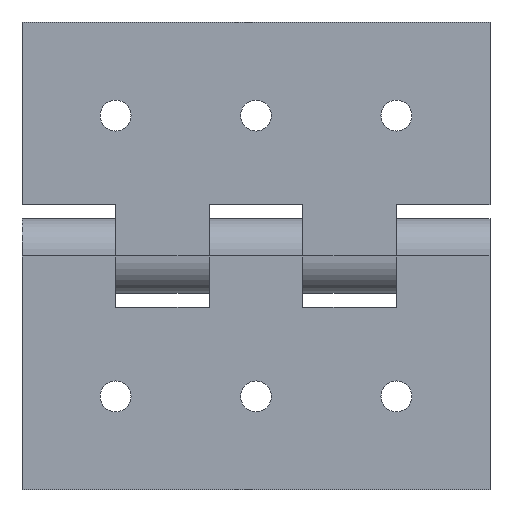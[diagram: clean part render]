
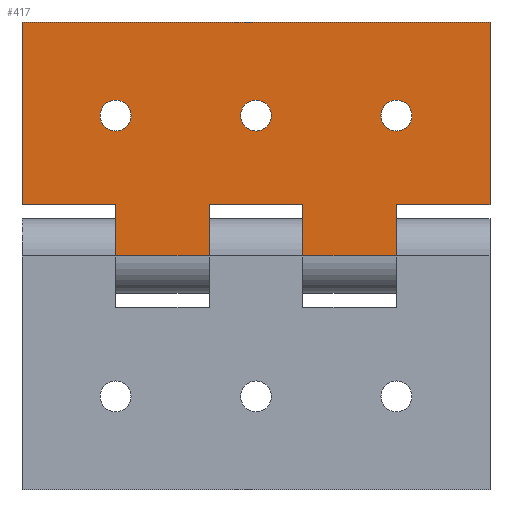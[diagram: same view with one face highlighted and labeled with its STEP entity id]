
A CAD part, front view. The second image highlights one B-rep face of the part: STEP entity #417.
In plain terms, the highlighted planar face has unit normal (0, -1, 0).
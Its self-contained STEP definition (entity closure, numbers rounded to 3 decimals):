
#3 = LINE ( 'NONE', #936, #1346 ) ;
#36 = DIRECTION ( 'NONE',  ( 0., 1., 0. ) ) ;
#47 = VERTEX_POINT ( 'NONE', #1855 ) ;
#72 = CARTESIAN_POINT ( 'NONE',  ( -30., 0., -10.954 ) ) ;
#125 = VERTEX_POINT ( 'NONE', #983 ) ;
#127 = CARTESIAN_POINT ( 'NONE',  ( 30., 0., -30. ) ) ;
#151 = EDGE_CURVE ( 'NONE', #1520, #2225, #1431, .T. ) ;
#166 = AXIS2_PLACEMENT_3D ( 'NONE', #1659, #767, #2097 ) ;
#176 = CARTESIAN_POINT ( 'NONE',  ( 0., 0., -26.7 ) ) ;
#179 = ORIENTED_EDGE ( 'NONE', *, *, #2782, .T. ) ;
#181 = ORIENTED_EDGE ( 'NONE', *, *, #1667, .T. ) ;
#192 = EDGE_CURVE ( 'NONE', #403, #2203, #1691, .T. ) ;
#201 = CIRCLE ( 'NONE', #2544, 3.3 ) ;
#213 = CARTESIAN_POINT ( 'NONE',  ( -10., 0., -10.954 ) ) ;
#236 = LINE ( 'NONE', #1143, #398 ) ;
#239 = CARTESIAN_POINT ( 'NONE',  ( 30., 0., -10.954 ) ) ;
#269 = EDGE_CURVE ( 'NONE', #1974, #47, #2843, .T. ) ;
#313 = EDGE_CURVE ( 'NONE', #651, #1520, #3, .T. ) ;
#351 = CARTESIAN_POINT ( 'NONE',  ( 50., 0., 0. ) ) ;
#398 = VECTOR ( 'NONE', #2192, 1000. ) ;
#399 = VERTEX_POINT ( 'NONE', #239 ) ;
#403 = VERTEX_POINT ( 'NONE', #2693 ) ;
#417 = ADVANCED_FACE ( 'NONE', ( #912, #1776, #713, #2665 ), #476, .F. ) ;
#469 = CARTESIAN_POINT ( 'NONE',  ( 0., 0., -30. ) ) ;
#476 = PLANE ( 'NONE',  #816 ) ;
#497 = EDGE_CURVE ( 'NONE', #565, #2157, #2318, .T. ) ;
#522 = VERTEX_POINT ( 'NONE', #2537 ) ;
#555 = DIRECTION ( 'NONE',  ( 0., 0., -1. ) ) ;
#565 = VERTEX_POINT ( 'NONE', #754 ) ;
#582 = DIRECTION ( 'NONE',  ( 0., 1., 0. ) ) ;
#591 = CARTESIAN_POINT ( 'NONE',  ( -30., 0., -10.954 ) ) ;
#627 = CARTESIAN_POINT ( 'NONE',  ( 10., 0., -10.954 ) ) ;
#642 = CARTESIAN_POINT ( 'NONE',  ( 50., 0., -50. ) ) ;
#651 = VERTEX_POINT ( 'NONE', #2700 ) ;
#678 = CARTESIAN_POINT ( 'NONE',  ( 50., 0., -50. ) ) ;
#703 = EDGE_CURVE ( 'NONE', #125, #522, #2708, .T. ) ;
#713 = FACE_BOUND ( 'NONE', #2200, .T. ) ;
#745 = AXIS2_PLACEMENT_3D ( 'NONE', #127, #582, #1298 ) ;
#754 = CARTESIAN_POINT ( 'NONE',  ( -30., 0., -26.7 ) ) ;
#766 = LINE ( 'NONE', #72, #2643 ) ;
#767 = DIRECTION ( 'NONE',  ( 0., 1., 0. ) ) ;
#769 = CARTESIAN_POINT ( 'NONE',  ( -30., 0., -33.3 ) ) ;
#784 = DIRECTION ( 'NONE',  ( 0., 0., 1. ) ) ;
#787 = DIRECTION ( 'NONE',  ( 0., 0., 1. ) ) ;
#816 = AXIS2_PLACEMENT_3D ( 'NONE', #1369, #2015, #1390 ) ;
#874 = EDGE_LOOP ( 'NONE', ( #1095, #1554, #1682, #1693, #2565, #2784, #2754, #2072, #1639, #181, #1984, #2057 ) ) ;
#888 = DIRECTION ( 'NONE',  ( 0., 1., 0. ) ) ;
#901 = VECTOR ( 'NONE', #1113, 1000. ) ;
#907 = CIRCLE ( 'NONE', #1141, 3.3 ) ;
#912 = FACE_BOUND ( 'NONE', #2040, .T. ) ;
#913 = EDGE_CURVE ( 'NONE', #2225, #125, #1785, .T. ) ;
#914 = VECTOR ( 'NONE', #1515, 1000. ) ;
#917 = CARTESIAN_POINT ( 'NONE',  ( 0., 0., -33.3 ) ) ;
#926 = EDGE_CURVE ( 'NONE', #2203, #1552, #1108, .T. ) ;
#936 = CARTESIAN_POINT ( 'NONE',  ( 50., 0., 0. ) ) ;
#959 = VECTOR ( 'NONE', #2131, 1000. ) ;
#983 = CARTESIAN_POINT ( 'NONE',  ( -10., 0., -10.954 ) ) ;
#1081 = CARTESIAN_POINT ( 'NONE',  ( -30., 0., 0. ) ) ;
#1095 = ORIENTED_EDGE ( 'NONE', *, *, #1327, .T. ) ;
#1108 = LINE ( 'NONE', #678, #2001 ) ;
#1113 = DIRECTION ( 'NONE',  ( -1., 0., 0. ) ) ;
#1141 = AXIS2_PLACEMENT_3D ( 'NONE', #2429, #36, #2442 ) ;
#1143 = CARTESIAN_POINT ( 'NONE',  ( 30., 0., -10.954 ) ) ;
#1155 = LINE ( 'NONE', #1411, #2171 ) ;
#1180 = CIRCLE ( 'NONE', #2735, 3.3 ) ;
#1206 = VERTEX_POINT ( 'NONE', #176 ) ;
#1244 = AXIS2_PLACEMENT_3D ( 'NONE', #2180, #1288, #2586 ) ;
#1256 = DIRECTION ( 'NONE',  ( 0., 1., 0. ) ) ;
#1288 = DIRECTION ( 'NONE',  ( 0., 1., 0. ) ) ;
#1298 = DIRECTION ( 'NONE',  ( 0., 0., 1. ) ) ;
#1309 = CARTESIAN_POINT ( 'NONE',  ( 10., 0., 0. ) ) ;
#1327 = EDGE_CURVE ( 'NONE', #403, #399, #2052, .T. ) ;
#1346 = VECTOR ( 'NONE', #2419, 1000. ) ;
#1357 = DIRECTION ( 'NONE',  ( -1., 0., 0. ) ) ;
#1369 = CARTESIAN_POINT ( 'NONE',  ( 50., 0., 0. ) ) ;
#1382 = DIRECTION ( 'NONE',  ( -1., 0., 0. ) ) ;
#1390 = DIRECTION ( 'NONE',  ( 0., 0., 1. ) ) ;
#1411 = CARTESIAN_POINT ( 'NONE',  ( -50., 0., 0. ) ) ;
#1431 = LINE ( 'NONE', #2316, #914 ) ;
#1467 = EDGE_CURVE ( 'NONE', #47, #1974, #1617, .T. ) ;
#1504 = LINE ( 'NONE', #2186, #901 ) ;
#1515 = DIRECTION ( 'NONE',  ( 0., 0., -1. ) ) ;
#1520 = VERTEX_POINT ( 'NONE', #1309 ) ;
#1537 = VECTOR ( 'NONE', #2283, 1000. ) ;
#1552 = VERTEX_POINT ( 'NONE', #1997 ) ;
#1554 = ORIENTED_EDGE ( 'NONE', *, *, #2818, .T. ) ;
#1595 = VECTOR ( 'NONE', #787, 1000. ) ;
#1617 = CIRCLE ( 'NONE', #745, 3.3 ) ;
#1639 = ORIENTED_EDGE ( 'NONE', *, *, #2017, .T. ) ;
#1659 = CARTESIAN_POINT ( 'NONE',  ( -30., 0., -30. ) ) ;
#1667 = EDGE_CURVE ( 'NONE', #2320, #1552, #1155, .T. ) ;
#1682 = ORIENTED_EDGE ( 'NONE', *, *, #313, .T. ) ;
#1691 = LINE ( 'NONE', #2837, #959 ) ;
#1693 = ORIENTED_EDGE ( 'NONE', *, *, #151, .T. ) ;
#1726 = ORIENTED_EDGE ( 'NONE', *, *, #1467, .T. ) ;
#1728 = VERTEX_POINT ( 'NONE', #591 ) ;
#1776 = FACE_BOUND ( 'NONE', #2726, .T. ) ;
#1785 = LINE ( 'NONE', #213, #1856 ) ;
#1804 = DIRECTION ( 'NONE',  ( 0., 0., -1. ) ) ;
#1832 = EDGE_CURVE ( 'NONE', #522, #1962, #2332, .T. ) ;
#1854 = CARTESIAN_POINT ( 'NONE',  ( 0., 0., -30. ) ) ;
#1855 = CARTESIAN_POINT ( 'NONE',  ( 30., 0., -26.7 ) ) ;
#1856 = VECTOR ( 'NONE', #1382, 1000. ) ;
#1870 = CARTESIAN_POINT ( 'NONE',  ( -10., 0., -10.954 ) ) ;
#1910 = EDGE_CURVE ( 'NONE', #1206, #2183, #201, .T. ) ;
#1940 = VECTOR ( 'NONE', #2094, 1000. ) ;
#1951 = ORIENTED_EDGE ( 'NONE', *, *, #497, .T. ) ;
#1962 = VERTEX_POINT ( 'NONE', #1081 ) ;
#1974 = VERTEX_POINT ( 'NONE', #2211 ) ;
#1984 = ORIENTED_EDGE ( 'NONE', *, *, #926, .F. ) ;
#1997 = CARTESIAN_POINT ( 'NONE',  ( -50., 0., -50. ) ) ;
#2001 = VECTOR ( 'NONE', #1357, 1000. ) ;
#2006 = ORIENTED_EDGE ( 'NONE', *, *, #269, .T. ) ;
#2015 = DIRECTION ( 'NONE',  ( 0., 1., 0. ) ) ;
#2017 = EDGE_CURVE ( 'NONE', #1728, #2320, #1504, .T. ) ;
#2040 = EDGE_LOOP ( 'NONE', ( #1951, #179 ) ) ;
#2052 = LINE ( 'NONE', #2253, #1537 ) ;
#2057 = ORIENTED_EDGE ( 'NONE', *, *, #192, .F. ) ;
#2072 = ORIENTED_EDGE ( 'NONE', *, *, #2510, .T. ) ;
#2079 = EDGE_CURVE ( 'NONE', #2183, #1206, #1180, .T. ) ;
#2094 = DIRECTION ( 'NONE',  ( -1., 0., 0. ) ) ;
#2097 = DIRECTION ( 'NONE',  ( 0., 0., 1. ) ) ;
#2131 = DIRECTION ( 'NONE',  ( 0., 0., -1. ) ) ;
#2157 = VERTEX_POINT ( 'NONE', #769 ) ;
#2171 = VECTOR ( 'NONE', #1804, 1000. ) ;
#2180 = CARTESIAN_POINT ( 'NONE',  ( 30., 0., -30. ) ) ;
#2183 = VERTEX_POINT ( 'NONE', #917 ) ;
#2186 = CARTESIAN_POINT ( 'NONE',  ( -50., 0., -10.954 ) ) ;
#2192 = DIRECTION ( 'NONE',  ( 0., 0., 1. ) ) ;
#2200 = EDGE_LOOP ( 'NONE', ( #1726, #2006 ) ) ;
#2203 = VERTEX_POINT ( 'NONE', #642 ) ;
#2211 = CARTESIAN_POINT ( 'NONE',  ( 30., 0., -33.3 ) ) ;
#2225 = VERTEX_POINT ( 'NONE', #627 ) ;
#2253 = CARTESIAN_POINT ( 'NONE',  ( 50., 0., -10.954 ) ) ;
#2282 = ORIENTED_EDGE ( 'NONE', *, *, #1910, .T. ) ;
#2283 = DIRECTION ( 'NONE',  ( -1., 0., 0. ) ) ;
#2316 = CARTESIAN_POINT ( 'NONE',  ( 10., 0., -10.954 ) ) ;
#2318 = CIRCLE ( 'NONE', #166, 3.3 ) ;
#2320 = VERTEX_POINT ( 'NONE', #2570 ) ;
#2332 = LINE ( 'NONE', #351, #1940 ) ;
#2410 = DIRECTION ( 'NONE',  ( 0., 0., 1. ) ) ;
#2419 = DIRECTION ( 'NONE',  ( -1., 0., 0. ) ) ;
#2429 = CARTESIAN_POINT ( 'NONE',  ( -30., 0., -30. ) ) ;
#2442 = DIRECTION ( 'NONE',  ( 0., 0., 1. ) ) ;
#2501 = ORIENTED_EDGE ( 'NONE', *, *, #2079, .T. ) ;
#2510 = EDGE_CURVE ( 'NONE', #1962, #1728, #766, .T. ) ;
#2537 = CARTESIAN_POINT ( 'NONE',  ( -10., 0., 0. ) ) ;
#2544 = AXIS2_PLACEMENT_3D ( 'NONE', #469, #888, #2410 ) ;
#2565 = ORIENTED_EDGE ( 'NONE', *, *, #913, .T. ) ;
#2570 = CARTESIAN_POINT ( 'NONE',  ( -50., 0., -10.954 ) ) ;
#2586 = DIRECTION ( 'NONE',  ( 0., 0., 1. ) ) ;
#2643 = VECTOR ( 'NONE', #555, 1000. ) ;
#2665 = FACE_OUTER_BOUND ( 'NONE', #874, .T. ) ;
#2693 = CARTESIAN_POINT ( 'NONE',  ( 50., 0., -10.954 ) ) ;
#2700 = CARTESIAN_POINT ( 'NONE',  ( 30., 0., 0. ) ) ;
#2708 = LINE ( 'NONE', #1870, #1595 ) ;
#2726 = EDGE_LOOP ( 'NONE', ( #2282, #2501 ) ) ;
#2735 = AXIS2_PLACEMENT_3D ( 'NONE', #1854, #1256, #784 ) ;
#2754 = ORIENTED_EDGE ( 'NONE', *, *, #1832, .T. ) ;
#2782 = EDGE_CURVE ( 'NONE', #2157, #565, #907, .T. ) ;
#2784 = ORIENTED_EDGE ( 'NONE', *, *, #703, .T. ) ;
#2818 = EDGE_CURVE ( 'NONE', #399, #651, #236, .T. ) ;
#2837 = CARTESIAN_POINT ( 'NONE',  ( 50., 0., 0. ) ) ;
#2843 = CIRCLE ( 'NONE', #1244, 3.3 ) ;
